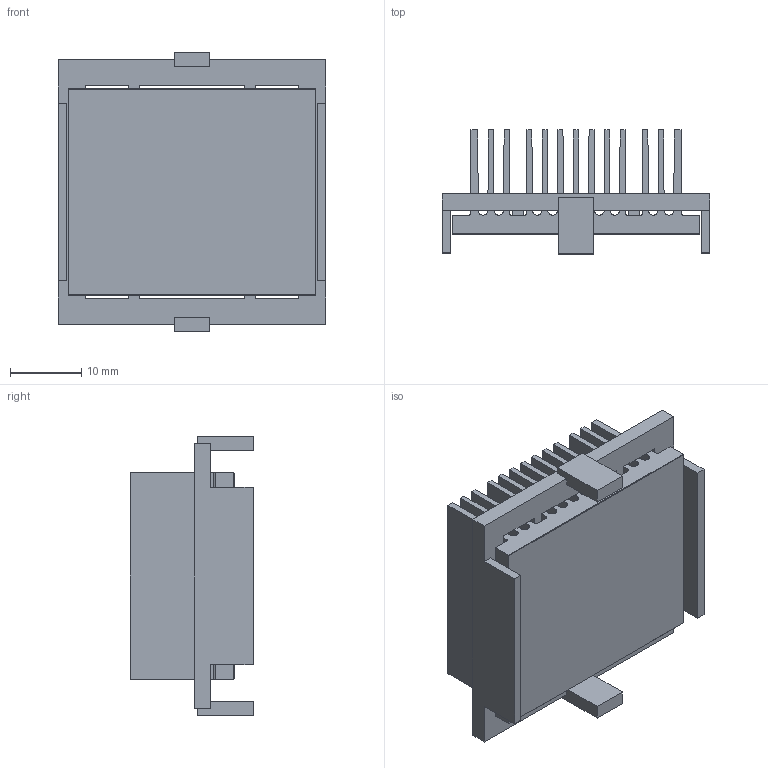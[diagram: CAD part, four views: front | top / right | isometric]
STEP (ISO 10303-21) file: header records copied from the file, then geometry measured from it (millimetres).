
FILE_DESCRIPTION (( 'STEP AP214' ), '1' );
FILE_NAME ('INH35001-15-2.6K29.STEP', '2023-02-17T22:45:29', ( '' ), ( '' ), 'SwSTEP 2.0', 'SolidWorks 2020', '' );
FILE_SCHEMA (( 'AUTOMOTIVE_DESIGN' ));
Length unit declared in the file: millimetre
Products named in the file (1): INH35001-15-2.6K29
Bounding box: 37.7 x 17.4 x 39.2 mm (x, y, z)
Volume: 8264.2 mm3; surface area: 16102.7 mm2
Topology: 3 solids, 3 shells, 144 faces, 414 edges, 276 vertices
Faces by surface type: plane 118, cylinder 26
Entity records: 6310 total; most frequent: CARTESIAN_POINT 835, ORIENTED_EDGE 828, DIRECTION 756, EDGE_CURVE 414, VECTOR 362, LINE 362, VERTEX_POINT 276, AXIS2_PLACEMENT_3D 197
